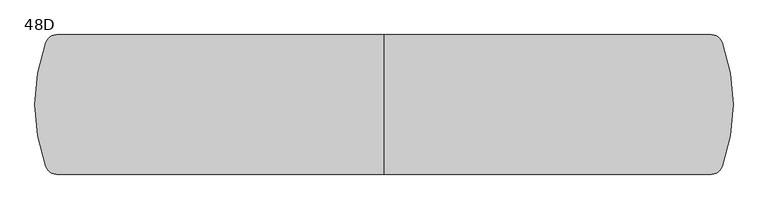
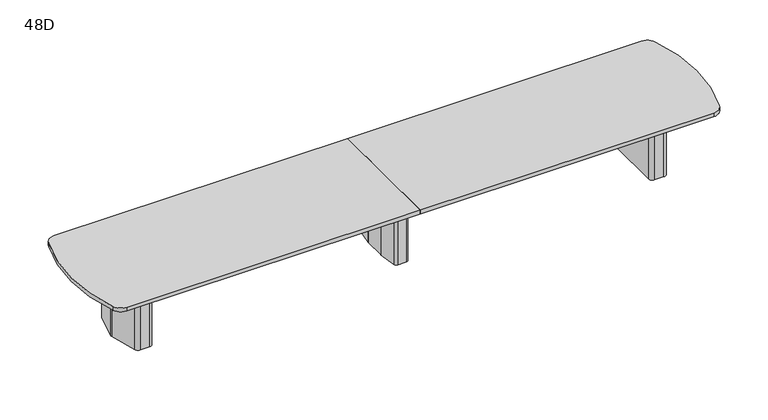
"""IFC4 building model written with IfcOpenShell, lengths in millimetres: furniture geometry, Coalesse_AM_Table_Conference_ETable2_SoftRadiused_20ft_ThreeBase : 48D."""

from ifc_helpers import new_model, si_unit, point, frame, frame_2d, origin, place, context, project, spatial, polyline, circle_curve, trimmed, segment, composite_curve, outline, extrude, source, transform, mapped, element, save
from ifc_brep_helpers import plane_surface, cylinder_surface, revolved_surface, advanced_brep


def furniture_48d_57b4d477(model_context):
    return source(origin(), model_context, "Body", "SolidModel", [
        advanced_brep(
        [(35.71875, 206.375, 3.175), (10.31875, 231.775, 3.175), (-10.31875, 231.775, 3.175), (-35.71875, 206.375, 3.175), (-35.71875, -206.375, 3.175), (-10.31875, -231.775, 3.175), (10.31875, -231.775, 3.175), (35.71875, -206.375, 3.175), (-61.11875, 206.375, 0.0), (-10.31875, 257.175, 0.0), (10.31875, 257.175, 0.0), (61.11875, 206.375, 0.0), (61.11875, -206.375, 0.0), (10.31875, -257.175, 0.0), (-10.31875, -257.175, 0.0), (-61.11875, -206.375, 0.0), (-61.11875, -206.375, 3.175), (-61.11875, 206.375, 3.175), (-10.31875, -257.175, 3.175), (10.31875, -257.175, 3.175), (61.11875, -206.375, 3.175), (61.11875, 206.375, 3.175), (10.31875, 257.175, 3.175), (-10.31875, 257.175, 3.175), (-92.6215974, 106.2976848, 698.5), (-92.86875, 102.7629613, 698.5), (-92.86875, -102.7629613, 698.5), (-92.6215974, -106.2976848, 698.5), (-67.7988375, -282.9347235, 698.5), (-42.6459902, -304.8, 698.5), (42.6459902, -304.8, 698.5), (67.7988375, -282.9347235, 698.5), (92.6215974, -106.2976848, 698.5), (92.86875, -102.7629613, 698.5), (92.86875, 102.7629613, 698.5), (92.6215974, 106.2976848, 698.5), (67.7988375, 282.9347235, 698.5), (42.6459902, 304.8, 698.5), (-42.6459902, 304.8, 698.5), (-67.7988375, 282.9347235, 698.5), (10.31875, 231.775, 698.5), (35.71875, 206.375, 698.5), (35.71875, -206.375, 698.5), (10.31875, -231.775, 698.5), (-10.31875, -231.775, 698.5), (-35.71875, -206.375, 698.5), (-35.71875, 206.375, 698.5), (-10.31875, 231.775, 698.5), (-92.6215974, 106.2976848, 3.175), (-67.7988375, 282.9347235, 3.175), (-42.6459902, 304.8, 3.175), (42.6459902, 304.8, 3.175), (67.7988375, 282.9347235, 3.175), (92.6215974, 106.2976848, 3.175), (92.86875, 102.7629613, 3.175), (92.86875, -102.7629613, 3.175), (92.6215974, -106.2976848, 3.175), (67.7988375, -282.9347235, 3.175), (42.6459902, -304.8, 3.175), (-42.6459902, -304.8, 3.175), (-67.7988375, -282.9347235, 3.175), (-92.6215974, -106.2976848, 3.175), (-92.86875, -102.7629613, 3.175), (-92.86875, 102.7629613, 3.175)],
        [
            (0, 1, circle_curve(frame((10.31875, 206.375, 3.175), z_axis=(0.0, 0.0, 1.0), x_axis=(1.0, 0.0, 0.0)), 25.4)),
            (1, 2),
            (2, 3, circle_curve(frame((-10.31875, 206.375, 3.175), z_axis=(0.0, 0.0, 1.0), x_axis=(1.0, 0.0, 0.0)), 25.4)),
            (3, 4),
            (4, 5, circle_curve(frame((-10.31875, -206.375, 3.175), z_axis=(0.0, 0.0, 1.0), x_axis=(1.0, 0.0, 0.0)), 25.4)),
            (5, 6),
            (6, 7, circle_curve(frame((10.31875, -206.375, 3.175), z_axis=(0.0, 0.0, 1.0), x_axis=(1.0, 0.0, 0.0)), 25.4)),
            (7, 0),
            (8, 9, circle_curve(frame((-10.31875, 206.375, 0.0), z_axis=(0.0, 0.0, -1.0), x_axis=(1.0, 0.0, 0.0)), 50.8)),
            (9, 10),
            (10, 11, circle_curve(frame((10.31875, 206.375, 0.0), z_axis=(0.0, 0.0, -1.0), x_axis=(1.0, 0.0, 0.0)), 50.8)),
            (11, 12),
            (12, 13, circle_curve(frame((10.31875, -206.375, 0.0), z_axis=(0.0, 0.0, -1.0), x_axis=(1.0, 0.0, 0.0)), 50.8)),
            (13, 14),
            (14, 15, circle_curve(frame((-10.31875, -206.375, 0.0), z_axis=(0.0, 0.0, -1.0), x_axis=(1.0, 0.0, 0.0)), 50.8)),
            (15, 8),
            (15, 16),
            (16, 17),
            (17, 8),
            (14, 18),
            (18, 16, circle_curve(frame((-10.31875, -206.375, 3.175), z_axis=(0.0, 0.0, -1.0), x_axis=(1.0, 0.0, 0.0)), 50.8)),
            (13, 19),
            (19, 18),
            (12, 20),
            (20, 19, circle_curve(frame((10.31875, -206.375, 3.175), z_axis=(0.0, 0.0, -1.0), x_axis=(1.0, 0.0, 0.0)), 50.8)),
            (11, 21),
            (21, 20),
            (10, 22),
            (22, 21, circle_curve(frame((10.31875, 206.375, 3.175), z_axis=(0.0, 0.0, -1.0), x_axis=(1.0, 0.0, 0.0)), 50.8)),
            (9, 23),
            (23, 22),
            (17, 23, circle_curve(frame((-10.31875, 206.375, 3.175), z_axis=(0.0, 0.0, -1.0), x_axis=(1.0, 0.0, 0.0)), 50.8)),
            (24, 25, circle_curve(frame((-67.46875, 102.7629613, 698.5), z_axis=(0.0, 0.0, 1.0), x_axis=(1.0, 0.0, 0.0)), 25.4)),
            (25, 26),
            (26, 27, circle_curve(frame((-67.46875, -102.7629613, 698.5), z_axis=(0.0, 0.0, 1.0), x_axis=(1.0, 0.0, 0.0)), 25.4)),
            (27, 28),
            (28, 29, circle_curve(frame((-42.6459902, -279.4, 698.5), z_axis=(0.0, 0.0, 1.0), x_axis=(1.0, 0.0, 0.0)), 25.4)),
            (29, 30),
            (30, 31, circle_curve(frame((42.6459902, -279.4, 698.5), z_axis=(0.0, 0.0, 1.0), x_axis=(1.0, 0.0, 0.0)), 25.4)),
            (31, 32),
            (32, 33, circle_curve(frame((67.46875, -102.7629613, 698.5), z_axis=(0.0, 0.0, 1.0), x_axis=(1.0, 0.0, 0.0)), 25.4)),
            (33, 34),
            (34, 35, circle_curve(frame((67.46875, 102.7629613, 698.5), z_axis=(0.0, 0.0, 1.0), x_axis=(1.0, 0.0, 0.0)), 25.4)),
            (35, 36),
            (36, 37, circle_curve(frame((42.6459902, 279.4, 698.5), z_axis=(0.0, 0.0, 1.0), x_axis=(1.0, 0.0, 0.0)), 25.4)),
            (37, 38),
            (38, 39, circle_curve(frame((-42.6459902, 279.4, 698.5), z_axis=(0.0, 0.0, 1.0), x_axis=(1.0, 0.0, 0.0)), 25.4)),
            (39, 24),
            (40, 41, circle_curve(frame((10.31875, 206.375, 698.5), z_axis=(0.0, 0.0, -1.0), x_axis=(1.0, 0.0, 0.0)), 25.4)),
            (41, 42),
            (42, 43, circle_curve(frame((10.31875, -206.375, 698.5), z_axis=(0.0, 0.0, -1.0), x_axis=(1.0, 0.0, 0.0)), 25.4)),
            (43, 44),
            (44, 45, circle_curve(frame((-10.31875, -206.375, 698.5), z_axis=(0.0, 0.0, -1.0), x_axis=(1.0, 0.0, 0.0)), 25.4)),
            (45, 46),
            (46, 47, circle_curve(frame((-10.31875, 206.375, 698.5), z_axis=(0.0, 0.0, -1.0), x_axis=(1.0, 0.0, 0.0)), 25.4)),
            (47, 40),
            (48, 49),
            (49, 50, circle_curve(frame((-42.6459902, 279.4, 3.175), z_axis=(0.0, 0.0, -1.0), x_axis=(1.0, 0.0, 0.0)), 25.4)),
            (50, 51),
            (51, 52, circle_curve(frame((42.6459902, 279.4, 3.175), z_axis=(0.0, 0.0, -1.0), x_axis=(1.0, 0.0, 0.0)), 25.4)),
            (52, 53),
            (53, 54, circle_curve(frame((67.46875, 102.7629613, 3.175), z_axis=(0.0, 0.0, -1.0), x_axis=(1.0, 0.0, 0.0)), 25.4)),
            (54, 55),
            (55, 56, circle_curve(frame((67.46875, -102.7629613, 3.175), z_axis=(0.0, 0.0, -1.0), x_axis=(1.0, 0.0, 0.0)), 25.4)),
            (56, 57),
            (57, 58, circle_curve(frame((42.6459902, -279.4, 3.175), z_axis=(0.0, 0.0, -1.0), x_axis=(1.0, 0.0, 0.0)), 25.4)),
            (58, 59),
            (59, 60, circle_curve(frame((-42.6459902, -279.4, 3.175), z_axis=(0.0, 0.0, -1.0), x_axis=(1.0, 0.0, 0.0)), 25.4)),
            (60, 61),
            (61, 62, circle_curve(frame((-67.46875, -102.7629613, 3.175), z_axis=(0.0, 0.0, -1.0), x_axis=(1.0, 0.0, 0.0)), 25.4)),
            (62, 63),
            (63, 48, circle_curve(frame((-67.46875, 102.7629613, 3.175), z_axis=(0.0, 0.0, -1.0), x_axis=(1.0, 0.0, 0.0)), 25.4)),
            (24, 48),
            (63, 25),
            (62, 26),
            (61, 27),
            (60, 28),
            (59, 29),
            (58, 30),
            (57, 31),
            (56, 32),
            (55, 33),
            (54, 34),
            (53, 35),
            (52, 36),
            (51, 37),
            (50, 38),
            (49, 39),
            (40, 1),
            (0, 41),
            (7, 42),
            (6, 43),
            (5, 44),
            (4, 45),
            (3, 46),
            (2, 47),
        ],
        [
            plane_surface(frame((-61.11875, -206.375, 3.175), z_axis=(0.0, 0.0, 1.0), x_axis=(0.0, -1.0, 0.0))),
            plane_surface(frame((-61.11875, -206.375, 0.0), z_axis=(0.0, 0.0, -1.0), x_axis=(0.0, 1.0, 0.0))),
            plane_surface(frame((-61.11875, 206.375, 3.175), z_axis=(-1.0, 0.0, 0.0), x_axis=(0.0, 0.0, -1.0))),
            cylinder_surface(frame((-10.31875, -206.375, 0.0), z_axis=(0.0, 0.0, 1.0), x_axis=(1.0, 0.0, 0.0)), 50.8),
            plane_surface(frame((-10.31875, -257.175, 3.175), z_axis=(0.0, -1.0, 0.0), x_axis=(0.0, 0.0, -1.0))),
            cylinder_surface(frame((10.31875, -206.375, 0.0), z_axis=(0.0, 0.0, 1.0), x_axis=(1.0, 0.0, 0.0)), 50.8),
            plane_surface(frame((61.11875, -206.375, 3.175), z_axis=(1.0, 0.0, 0.0), x_axis=(0.0, 0.0, -1.0))),
            cylinder_surface(frame((10.31875, 206.375, 0.0), z_axis=(0.0, 0.0, 1.0), x_axis=(1.0, 0.0, 0.0)), 50.8),
            plane_surface(frame((10.31875, 257.175, 3.175), z_axis=(0.0, 1.0, 0.0), x_axis=(0.0, 0.0, -1.0))),
            cylinder_surface(frame((-10.31875, 206.375, 0.0), z_axis=(0.0, 0.0, 1.0), x_axis=(1.0, 0.0, 0.0)), 50.8),
            plane_surface(frame((-42.06875, 102.7629613, 698.5), z_axis=(0.0, 0.0, 1.0), x_axis=(0.0, 1.0, 0.0))),
            plane_surface(frame((-42.06875, 102.7629613, 3.175), z_axis=(0.0, 0.0, -1.0), x_axis=(0.0, -1.0, 0.0))),
            cylinder_surface(frame((-67.46875, 102.7629613, 3.175), z_axis=(0.0, 0.0, 1.0), x_axis=(1.0, 0.0, 0.0)), 25.4),
            plane_surface(frame((-92.86875, 102.7629613, 698.5), z_axis=(-1.0, 0.0, 0.0), x_axis=(0.0, 0.0, -1.0))),
            cylinder_surface(frame((-67.46875, -102.7629613, 3.175), z_axis=(0.0, 0.0, 1.0), x_axis=(1.0, 0.0, 0.0)), 25.4),
            plane_surface(frame((-92.6215974, -106.2976848, 698.5), z_axis=(-0.9902695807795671, -0.13916234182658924, 0.0), x_axis=(0.0, 0.0, -1.0))),
            cylinder_surface(frame((-42.6459902, -279.4, 3.175), z_axis=(0.0, 0.0, 1.0), x_axis=(1.0, 0.0, 0.0)), 25.4),
            plane_surface(frame((-42.6459902, -304.8, 698.5), z_axis=(0.0, -1.0, 0.0), x_axis=(0.0, 0.0, -1.0))),
            cylinder_surface(frame((42.6459902, -279.4, 3.175), z_axis=(0.0, 0.0, 1.0), x_axis=(1.0, 0.0, 0.0)), 25.4),
            plane_surface(frame((67.7988375, -282.9347235, 698.5), z_axis=(0.9902695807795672, -0.13916234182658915, 0.0), x_axis=(0.0, 0.0, -1.0))),
            cylinder_surface(frame((67.46875, -102.7629613, 3.175), z_axis=(0.0, 0.0, 1.0), x_axis=(1.0, 0.0, 0.0)), 25.4),
            plane_surface(frame((92.86875, -102.7629613, 698.5), z_axis=(1.0, 0.0, 0.0), x_axis=(0.0, 0.0, -1.0))),
            cylinder_surface(frame((67.46875, 102.7629613, 3.175), z_axis=(0.0, 0.0, 1.0), x_axis=(1.0, 0.0, 0.0)), 25.4),
            plane_surface(frame((92.6215974, 106.2976848, 698.5), z_axis=(0.9902695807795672, 0.1391623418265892, 0.0), x_axis=(0.0, 0.0, -1.0))),
            cylinder_surface(frame((42.6459902, 279.4, 3.175), z_axis=(0.0, 0.0, 1.0), x_axis=(1.0, 0.0, 0.0)), 25.4),
            plane_surface(frame((42.6459902, 304.8, 698.5), z_axis=(0.0, 1.0, 0.0), x_axis=(0.0, 0.0, -1.0))),
            cylinder_surface(frame((-42.6459902, 279.4, 3.175), z_axis=(0.0, 0.0, 1.0), x_axis=(1.0, 0.0, 0.0)), 25.4),
            plane_surface(frame((-67.7988375, 282.9347235, 698.5), z_axis=(-0.9902695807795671, 0.13916234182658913, 0.0), x_axis=(0.0, 0.0, -1.0))),
            revolved_surface(polyline([(35.71875, 206.375, 3.175), (35.71875, 206.375, 698.5)]), (10.31875, 206.375, 0.0), (0.0, 0.0, -1.0)),
            plane_surface(frame((35.71875, 206.375, 698.5), z_axis=(-1.0, 0.0, 0.0), x_axis=(0.0, 0.0, -1.0))),
            revolved_surface(polyline([(35.71875, -206.375, 3.175), (35.71875, -206.375, 698.5)]), (10.31875, -206.375, 0.0), (0.0, 0.0, -1.0)),
            plane_surface(frame((10.31875, -231.775, 698.5), z_axis=(0.0, 1.0, 0.0), x_axis=(0.0, 0.0, -1.0))),
            revolved_surface(polyline([(15.081249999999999, -206.375, 3.175), (15.081249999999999, -206.375, 698.5)]), (-10.31875, -206.375, 0.0), (0.0, 0.0, -1.0)),
            plane_surface(frame((-35.71875, -206.375, 698.5), z_axis=(1.0, 0.0, 0.0), x_axis=(0.0, 0.0, -1.0))),
            revolved_surface(polyline([(15.081249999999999, 206.375, 3.175), (15.081249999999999, 206.375, 698.5)]), (-10.31875, 206.375, 0.0), (0.0, 0.0, -1.0)),
            plane_surface(frame((-10.31875, 231.775, 698.5), z_axis=(0.0, -1.0, 0.0), x_axis=(0.0, 0.0, -1.0))),
        ],
        [
            (0, [[1, 2, 3, 4, 5, 6, 7, 8]]),
            (1, [[9, 10, 11, 12, 13, 14, 15, 16]]),
            (2, [[-16, 17, 18, 19]]),
            (3, [[-15, 20, 21, -17]]),
            (4, [[-14, 22, 23, -20]]),
            (5, [[-13, 24, 25, -22]]),
            (6, [[-12, 26, 27, -24]]),
            (7, [[-11, 28, 29, -26]]),
            (8, [[-10, 30, 31, -28]]),
            (9, [[-9, -19, 32, -30]]),
            (10, [[33, 34, 35, 36, 37, 38, 39, 40, 41, 42, 43, 44, 45, 46, 47, 48], [49, 50, 51, 52, 53, 54, 55, 56]]),
            (11, [[57, 58, 59, 60, 61, 62, 63, 64, 65, 66, 67, 68, 69, 70, 71, 72], [-18, -21, -23, -25, -27, -29, -31, -32]]),
            (12, [[-33, 73, -72, 74]]),
            (13, [[-34, -74, -71, 75]]),
            (14, [[-35, -75, -70, 76]]),
            (15, [[-36, -76, -69, 77]]),
            (16, [[-37, -77, -68, 78]]),
            (17, [[-38, -78, -67, 79]]),
            (18, [[-39, -79, -66, 80]]),
            (19, [[-40, -80, -65, 81]]),
            (20, [[-41, -81, -64, 82]]),
            (21, [[-42, -82, -63, 83]]),
            (22, [[-43, -83, -62, 84]]),
            (23, [[-44, -84, -61, 85]]),
            (24, [[-45, -85, -60, 86]]),
            (25, [[-46, -86, -59, 87]]),
            (26, [[-47, -87, -58, 88]]),
            (27, [[-48, -88, -57, -73]]),
            (28, [[-49, 89, -1, 90]]),
            (29, [[-50, -90, -8, 91]]),
            (30, [[-51, -91, -7, 92]]),
            (31, [[-52, -92, -6, 93]]),
            (32, [[-53, -93, -5, 94]]),
            (33, [[-54, -94, -4, 95]]),
            (34, [[-55, -95, -3, 96]]),
            (35, [[-56, -96, -2, -89]]),
        ],
    ),
        advanced_brep(
        [(2589.424548, 274.2093613, 698.5), (2549.5579246, 304.8, 698.5), (2460.625, 304.8, 698.5), (2419.35, 263.525, 698.5), (2419.35, -263.525, 698.5), (2460.625, -304.8, 698.5), (2549.5579246, -304.8, 698.5), (2589.424548, -274.2093613, 698.5), (2660.0503901, -10.6333708, 698.5), (2660.0503901, 10.6333708, 698.5), (2457.45, -206.375, 698.5), (2457.45, 206.375, 698.5), (2482.85, 231.775, 698.5), (2541.8608422, 231.775, 698.5), (2566.395338, 212.9490792, 698.5), (2605.0875, 68.54974, 698.5), (2605.0875, -68.54974, 698.5), (2566.395338, -212.9490792, 698.5), (2541.8608422, -231.775, 698.5), (2482.85, -231.775, 698.5), (2589.424548, 274.2093613, 3.175), (2660.0503901, 10.6333708, 3.175), (2660.0503901, -10.6333708, 3.175), (2589.424548, -274.2093613, 3.175), (2549.5579246, -304.8, 3.175), (2460.625, -304.8, 3.175), (2419.35, -263.525, 3.175), (2419.35, 263.525, 3.175), (2460.625, 304.8, 3.175), (2549.5579246, 304.8, 3.175), (2578.6625859, 216.2361187, 3.175), (2541.8608422, 244.475, 3.175), (2482.85, 244.475, 3.175), (2444.75, 206.375, 3.175), (2444.75, -206.375, 3.175), (2482.85, -244.475, 3.175), (2541.8608422, -244.475, 3.175), (2578.6625859, -216.2361187, 3.175), (2617.7875, -70.2217466, 3.175), (2617.7875, 70.2217466, 3.175), (2482.85, -231.775, 3.175), (2457.45, -206.375, 3.175), (2541.8608422, -231.775, 3.175), (2566.395338, -212.9490792, 3.175), (2605.0875, -68.54974, 3.175), (2605.0875, 68.54974, 3.175), (2566.395338, 212.9490792, 3.175), (2541.8608422, 231.775, 3.175), (2482.85, 231.775, 3.175), (2457.45, 206.375, 3.175), (2578.6625859, 216.2361187, 0.0), (2617.7875, 70.2217466, 0.0), (2617.7875, -70.2217466, 0.0), (2578.6625859, -216.2361187, 0.0), (2541.8608422, -244.475, 0.0), (2482.85, -244.475, 0.0), (2444.75, -206.375, 0.0), (2444.75, 206.375, 0.0), (2482.85, 244.475, 0.0), (2541.8608422, 244.475, 0.0)],
        [
            (0, 1, circle_curve(frame((2549.5579246, 263.5270004, 698.5), z_axis=(0.0, 0.0, 1.0), x_axis=(-1.0, 0.0, 0.0)), 41.2729996)),
            (1, 2),
            (2, 3, circle_curve(frame((2460.625, 263.525, 698.5), z_axis=(0.0, 0.0, 1.0), x_axis=(-1.0, 0.0, 0.0)), 41.275)),
            (3, 4),
            (4, 5, circle_curve(frame((2460.625, -263.525, 698.5), z_axis=(0.0, 0.0, 1.0), x_axis=(-1.0, 0.0, 0.0)), 41.275)),
            (5, 6),
            (6, 7, circle_curve(frame((2549.5579246, -263.5270004, 698.5), z_axis=(0.0, 0.0, 1.0), x_axis=(-1.0, 0.0, 0.0)), 41.2729996)),
            (7, 8),
            (8, 9, circle_curve(frame((2620.3665979, 0.0, 698.5), z_axis=(0.0, 0.0, 1.0), x_axis=(-1.0, 0.0, 0.0)), 41.0837187)),
            (9, 0),
            (10, 11),
            (11, 12, circle_curve(frame((2482.85, 206.375, 698.5), z_axis=(0.0, 0.0, -1.0), x_axis=(-1.0, 0.0, 0.0)), 25.4)),
            (12, 13),
            (13, 14, circle_curve(frame((2541.8608422, 206.375, 698.5), z_axis=(0.0, 0.0, -1.0), x_axis=(-1.0, 0.0, 0.0)), 25.4)),
            (14, 15),
            (15, 16),
            (16, 17),
            (17, 18, circle_curve(frame((2541.8608422, -206.375, 698.5), z_axis=(0.0, 0.0, -1.0), x_axis=(-1.0, 0.0, 0.0)), 25.4)),
            (18, 19),
            (19, 10, circle_curve(frame((2482.85, -206.375, 698.5), z_axis=(0.0, 0.0, -1.0), x_axis=(-1.0, 0.0, 0.0)), 25.4)),
            (20, 21),
            (21, 22, circle_curve(frame((2620.3665979, 0.0, 3.175), z_axis=(0.0, 0.0, -1.0), x_axis=(-1.0, 0.0, 0.0)), 41.0837187)),
            (22, 23),
            (23, 24, circle_curve(frame((2549.5579246, -263.5270004, 3.175), z_axis=(0.0, 0.0, -1.0), x_axis=(-1.0, 0.0, 0.0)), 41.2729996)),
            (24, 25),
            (25, 26, circle_curve(frame((2460.625, -263.525, 3.175), z_axis=(0.0, 0.0, -1.0), x_axis=(-1.0, 0.0, 0.0)), 41.275)),
            (26, 27),
            (27, 28, circle_curve(frame((2460.625, 263.525, 3.175), z_axis=(0.0, 0.0, -1.0), x_axis=(-1.0, 0.0, 0.0)), 41.275)),
            (28, 29),
            (29, 20, circle_curve(frame((2549.5579246, 263.5270004, 3.175), z_axis=(0.0, 0.0, -1.0), x_axis=(-1.0, 0.0, 0.0)), 41.2729996)),
            (30, 31, circle_curve(frame((2541.8608422, 206.375, 3.175), z_axis=(0.0, 0.0, 1.0), x_axis=(-1.0, 0.0, 0.0)), 38.1)),
            (31, 32),
            (32, 33, circle_curve(frame((2482.85, 206.375, 3.175), z_axis=(0.0, 0.0, 1.0), x_axis=(-1.0, 0.0, 0.0)), 38.1)),
            (33, 34),
            (34, 35, circle_curve(frame((2482.85, -206.375, 3.175), z_axis=(0.0, 0.0, 1.0), x_axis=(-1.0, 0.0, 0.0)), 38.1)),
            (35, 36),
            (36, 37, circle_curve(frame((2541.8608422, -206.375, 3.175), z_axis=(0.0, 0.0, 1.0), x_axis=(-1.0, 0.0, 0.0)), 38.1)),
            (37, 38),
            (38, 39),
            (39, 30),
            (9, 21),
            (20, 0),
            (8, 22),
            (7, 23),
            (6, 24),
            (5, 25),
            (4, 26),
            (3, 27),
            (2, 28),
            (1, 29),
            (19, 40),
            (40, 41, circle_curve(frame((2482.85, -206.375, 3.175), z_axis=(0.0, 0.0, -1.0), x_axis=(-1.0, 0.0, 0.0)), 25.4)),
            (41, 10),
            (18, 42),
            (42, 40),
            (17, 43),
            (43, 42, circle_curve(frame((2541.8608422, -206.375, 3.175), z_axis=(0.0, 0.0, -1.0), x_axis=(-1.0, 0.0, 0.0)), 25.4)),
            (16, 44),
            (44, 43),
            (15, 45),
            (45, 44),
            (14, 46),
            (46, 45),
            (13, 47),
            (47, 46, circle_curve(frame((2541.8608422, 206.375, 3.175), z_axis=(0.0, 0.0, -1.0), x_axis=(-1.0, 0.0, 0.0)), 25.4)),
            (12, 48),
            (48, 47),
            (11, 49),
            (49, 48, circle_curve(frame((2482.85, 206.375, 3.175), z_axis=(0.0, 0.0, -1.0), x_axis=(-1.0, 0.0, 0.0)), 25.4)),
            (41, 49),
            (50, 51),
            (51, 52),
            (52, 53),
            (53, 54, circle_curve(frame((2541.8608422, -206.375, 0.0), z_axis=(0.0, 0.0, -1.0), x_axis=(-1.0, 0.0, 0.0)), 38.1)),
            (54, 55),
            (55, 56, circle_curve(frame((2482.85, -206.375, 0.0), z_axis=(0.0, 0.0, -1.0), x_axis=(-1.0, 0.0, 0.0)), 38.1)),
            (56, 57),
            (57, 58, circle_curve(frame((2482.85, 206.375, 0.0), z_axis=(0.0, 0.0, -1.0), x_axis=(-1.0, 0.0, 0.0)), 38.1)),
            (58, 59),
            (59, 50, circle_curve(frame((2541.8608422, 206.375, 0.0), z_axis=(0.0, 0.0, -1.0), x_axis=(-1.0, 0.0, 0.0)), 38.1)),
            (50, 30),
            (39, 51),
            (38, 52),
            (37, 53),
            (36, 54),
            (35, 55),
            (34, 56),
            (33, 57),
            (32, 58),
            (31, 59),
        ],
        [
            plane_surface(frame((2660.0374275, 10.6817473, 698.5), z_axis=(0.0, 0.0, 1.0000000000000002), x_axis=(0.25882201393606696, -0.9659250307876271, 0.0))),
            plane_surface(frame((2660.0374275, 10.6817473, 3.175), z_axis=(0.0, 0.0, -1.0000000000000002), x_axis=(-0.25882201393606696, 0.9659250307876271, 0.0))),
            plane_surface(frame((2589.424548, 274.2093613, 698.5), z_axis=(0.9659250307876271, 0.25882201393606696, 0.0), x_axis=(0.0, 0.0, -1.0))),
            cylinder_surface(frame((2620.3665979, 0.0, 3.175), z_axis=(0.0, 0.0, 1.0), x_axis=(-1.0, 0.0, 0.0)), 41.0837187),
            plane_surface(frame((2660.0503901, -10.6333708, 698.5), z_axis=(0.9659250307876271, -0.2588220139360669, 0.0), x_axis=(0.0, 0.0, -1.0))),
            cylinder_surface(frame((2549.5579246, -263.5270004, 3.175), z_axis=(0.0, 0.0, 1.0), x_axis=(-1.0, 0.0, 0.0)), 41.2729996),
            plane_surface(frame((2549.5579246, -304.8, 698.5), z_axis=(0.0, -1.0, 0.0), x_axis=(0.0, 0.0, -1.0))),
            cylinder_surface(frame((2460.625, -263.525, 3.175), z_axis=(0.0, 0.0, 1.0), x_axis=(-1.0, 0.0, 0.0)), 41.275),
            plane_surface(frame((2419.35, -263.525, 698.5), z_axis=(-1.0, 0.0, 0.0), x_axis=(0.0, 0.0, -1.0))),
            cylinder_surface(frame((2460.625, 263.525, 3.175), z_axis=(0.0, 0.0, 1.0), x_axis=(-1.0, 0.0, 0.0)), 41.275),
            plane_surface(frame((2460.625, 304.8, 698.5), z_axis=(0.0, 1.0, 0.0), x_axis=(0.0, 0.0, -1.0))),
            cylinder_surface(frame((2549.5579246, 263.5270004, 3.175), z_axis=(0.0, 0.0, 1.0), x_axis=(-1.0, 0.0, 0.0)), 41.2729996),
            revolved_surface(polyline([(2457.45, -206.375, 3.175), (2457.45, -206.375, 698.5)]), (2482.85, -206.375, 0.0), (0.0, 0.0, -1.0)),
            plane_surface(frame((2482.85, -231.775, 698.5), z_axis=(0.0, 1.0, 0.0), x_axis=(0.0, 0.0, -1.0))),
            revolved_surface(polyline([(2516.4608422, -206.375, 3.175), (2516.4608422, -206.375, 698.5)]), (2541.8608422, -206.375, 0.0), (0.0, 0.0, -1.0)),
            plane_surface(frame((2566.395338, -212.9490792, 698.5), z_axis=(-0.9659250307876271, 0.2588220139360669, 0.0), x_axis=(0.0, 0.0, -1.0))),
            plane_surface(frame((2605.0875, -68.54974, 698.5), z_axis=(-1.0, 0.0, 0.0), x_axis=(0.0, 0.0, -1.0))),
            plane_surface(frame((2605.0875, 68.54974, 698.5), z_axis=(-0.9659250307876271, -0.25882201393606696, 0.0), x_axis=(0.0, 0.0, -1.0))),
            revolved_surface(polyline([(2516.4608422, 206.375, 3.175), (2516.4608422, 206.375, 698.5)]), (2541.8608422, 206.375, 0.0), (0.0, 0.0, -1.0)),
            plane_surface(frame((2541.8608422, 231.775, 698.5), z_axis=(0.0, -1.0, 0.0), x_axis=(0.0, 0.0, -1.0))),
            revolved_surface(polyline([(2457.45, 206.375, 3.175), (2457.45, 206.375, 698.5)]), (2482.85, 206.375, 0.0), (0.0, 0.0, -1.0)),
            plane_surface(frame((2457.45, 206.375, 698.5), z_axis=(1.0, 0.0, 0.0), x_axis=(0.0, 0.0, -1.0))),
            plane_surface(frame((2617.3547479, 71.8367796, 3.175), z_axis=(0.0, 0.0, 1.0), x_axis=(0.25882201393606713, -0.965925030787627, 0.0))),
            plane_surface(frame((2617.3547479, 71.8367796, 0.0), z_axis=(0.0, 0.0, -1.0), x_axis=(-0.25882201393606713, 0.965925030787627, 0.0))),
            plane_surface(frame((2578.6625859, 216.2361187, 3.175), z_axis=(0.965925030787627, 0.25882201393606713, 0.0), x_axis=(0.0, 0.0, -1.0))),
            plane_surface(frame((2617.7875, 70.2217466, 3.175), z_axis=(1.0, 0.0, 0.0), x_axis=(0.0, 0.0, -1.0))),
            plane_surface(frame((2617.7875, -70.2217466, 3.175), z_axis=(0.9659250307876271, -0.2588220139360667, 0.0), x_axis=(0.0, 0.0, -1.0))),
            cylinder_surface(frame((2541.8608422, -206.375, 0.0), z_axis=(0.0, 0.0, 1.0), x_axis=(-1.0, 0.0, 0.0)), 38.1),
            plane_surface(frame((2541.8608422, -244.475, 3.175), z_axis=(0.0, -1.0, 0.0), x_axis=(0.0, 0.0, -1.0))),
            cylinder_surface(frame((2482.85, -206.375, 0.0), z_axis=(0.0, 0.0, 1.0), x_axis=(-1.0, 0.0, 0.0)), 38.1),
            plane_surface(frame((2444.75, -206.375, 3.175), z_axis=(-1.0, 0.0, 0.0), x_axis=(0.0, 0.0, -1.0))),
            cylinder_surface(frame((2482.85, 206.375, 0.0), z_axis=(0.0, 0.0, 1.0), x_axis=(-1.0, 0.0, 0.0)), 38.1),
            plane_surface(frame((2482.85, 244.475, 3.175), z_axis=(0.0, 1.0, 0.0), x_axis=(0.0, 0.0, -1.0))),
            cylinder_surface(frame((2541.8608422, 206.375, 0.0), z_axis=(0.0, 0.0, 1.0), x_axis=(-1.0, 0.0, 0.0)), 38.1),
        ],
        [
            (0, [[1, 2, 3, 4, 5, 6, 7, 8, 9, 10], [11, 12, 13, 14, 15, 16, 17, 18, 19, 20]]),
            (1, [[21, 22, 23, 24, 25, 26, 27, 28, 29, 30], [31, 32, 33, 34, 35, 36, 37, 38, 39, 40]]),
            (2, [[41, -21, 42, -10]]),
            (3, [[43, -22, -41, -9]]),
            (4, [[44, -23, -43, -8]]),
            (5, [[45, -24, -44, -7]]),
            (6, [[46, -25, -45, -6]]),
            (7, [[47, -26, -46, -5]]),
            (8, [[48, -27, -47, -4]]),
            (9, [[49, -28, -48, -3]]),
            (10, [[50, -29, -49, -2]]),
            (11, [[-42, -30, -50, -1]]),
            (12, [[51, 52, 53, -20]]),
            (13, [[54, 55, -51, -19]]),
            (14, [[56, 57, -54, -18]]),
            (15, [[58, 59, -56, -17]]),
            (16, [[60, 61, -58, -16]]),
            (17, [[62, 63, -60, -15]]),
            (18, [[64, 65, -62, -14]]),
            (19, [[66, 67, -64, -13]]),
            (20, [[68, 69, -66, -12]]),
            (21, [[-53, 70, -68, -11]]),
            (22, [[-55, -57, -59, -61, -63, -65, -67, -69, -70, -52]]),
            (23, [[71, 72, 73, 74, 75, 76, 77, 78, 79, 80]]),
            (24, [[81, -40, 82, -71]]),
            (25, [[-82, -39, 83, -72]]),
            (26, [[-83, -38, 84, -73]]),
            (27, [[-84, -37, 85, -74]]),
            (28, [[-85, -36, 86, -75]]),
            (29, [[-86, -35, 87, -76]]),
            (30, [[-87, -34, 88, -77]]),
            (31, [[-88, -33, 89, -78]]),
            (32, [[-89, -32, 90, -79]]),
            (33, [[-90, -31, -81, -80]]),
        ],
    ),
        advanced_brep(
        [(-2589.424548, 274.2093613, 698.5), (-2660.0503901, 10.6333708, 698.5), (-2660.0503901, -10.6333708, 698.5), (-2589.424548, -274.2093613, 698.5), (-2549.5579246, -304.8, 698.5), (-2460.625, -304.8, 698.5), (-2419.35, -263.525, 698.5), (-2419.35, 263.525, 698.5), (-2460.625, 304.8, 698.5), (-2549.5579246, 304.8, 698.5), (-2457.45, -206.375, 698.5), (-2482.85, -231.775, 698.5), (-2541.8608422, -231.775, 698.5), (-2566.395338, -212.9490792, 698.5), (-2605.0875, -68.54974, 698.5), (-2605.0875, 68.54974, 698.5), (-2566.395338, 212.9490792, 698.5), (-2541.8608422, 231.775, 698.5), (-2482.85, 231.775, 698.5), (-2457.45, 206.375, 698.5), (-2589.424548, 274.2093613, 3.175), (-2549.5579246, 304.8, 3.175), (-2460.625, 304.8, 3.175), (-2419.35, 263.525, 3.175), (-2419.35, -263.525, 3.175), (-2460.625, -304.8, 3.175), (-2549.5579246, -304.8, 3.175), (-2589.424548, -274.2093613, 3.175), (-2660.0503901, -10.6333708, 3.175), (-2660.0503901, 10.6333708, 3.175), (-2578.6625859, 216.2361187, 3.175), (-2617.7875, 70.2217466, 3.175), (-2617.7875, -70.2217466, 3.175), (-2578.6625859, -216.2361187, 3.175), (-2541.8608422, -244.475, 3.175), (-2482.85, -244.475, 3.175), (-2444.75, -206.375, 3.175), (-2444.75, 206.375, 3.175), (-2482.85, 244.475, 3.175), (-2541.8608422, 244.475, 3.175), (-2457.45, -206.375, 3.175), (-2482.85, -231.775, 3.175), (-2541.8608422, -231.775, 3.175), (-2566.395338, -212.9490792, 3.175), (-2605.0875, -68.54974, 3.175), (-2605.0875, 68.54974, 3.175), (-2566.395338, 212.9490792, 3.175), (-2541.8608422, 231.775, 3.175), (-2482.85, 231.775, 3.175), (-2457.45, 206.375, 3.175), (-2578.6625859, 216.2361187, 0.0), (-2541.8608422, 244.475, 0.0), (-2482.85, 244.475, 0.0), (-2444.75, 206.375, 0.0), (-2444.75, -206.375, 0.0), (-2482.85, -244.475, 0.0), (-2541.8608422, -244.475, 0.0), (-2578.6625859, -216.2361187, 0.0), (-2617.7875, -70.2217466, 0.0), (-2617.7875, 70.2217466, 0.0)],
        [
            (0, 1),
            (1, 2, circle_curve(frame((-2620.3665979, 0.0, 698.5), z_axis=(0.0, 0.0, 1.0), x_axis=(1.0, 0.0, 0.0)), 41.0837187)),
            (2, 3),
            (3, 4, circle_curve(frame((-2549.5579246, -263.5270004, 698.5), z_axis=(0.0, 0.0, 1.0), x_axis=(1.0, 0.0, 0.0)), 41.2729996)),
            (4, 5),
            (5, 6, circle_curve(frame((-2460.625, -263.525, 698.5), z_axis=(0.0, 0.0, 1.0), x_axis=(1.0, 0.0, 0.0)), 41.275)),
            (6, 7),
            (7, 8, circle_curve(frame((-2460.625, 263.525, 698.5), z_axis=(0.0, 0.0, 1.0), x_axis=(1.0, 0.0, 0.0)), 41.275)),
            (8, 9),
            (9, 0, circle_curve(frame((-2549.5579246, 263.5270004, 698.5), z_axis=(0.0, 0.0, 1.0), x_axis=(1.0, 0.0, 0.0)), 41.2729996)),
            (10, 11, circle_curve(frame((-2482.85, -206.375, 698.5), z_axis=(0.0, 0.0, -1.0), x_axis=(1.0, 0.0, 0.0)), 25.4)),
            (11, 12),
            (12, 13, circle_curve(frame((-2541.8608422, -206.375, 698.5), z_axis=(0.0, 0.0, -1.0), x_axis=(1.0, 0.0, 0.0)), 25.4)),
            (13, 14),
            (14, 15),
            (15, 16),
            (16, 17, circle_curve(frame((-2541.8608422, 206.375, 698.5), z_axis=(0.0, 0.0, -1.0), x_axis=(1.0, 0.0, 0.0)), 25.4)),
            (17, 18),
            (18, 19, circle_curve(frame((-2482.85, 206.375, 698.5), z_axis=(0.0, 0.0, -1.0), x_axis=(1.0, 0.0, 0.0)), 25.4)),
            (19, 10),
            (20, 21, circle_curve(frame((-2549.5579246, 263.5270004, 3.175), z_axis=(0.0, 0.0, -1.0), x_axis=(1.0, 0.0, 0.0)), 41.2729996)),
            (21, 22),
            (22, 23, circle_curve(frame((-2460.625, 263.525, 3.175), z_axis=(0.0, 0.0, -1.0), x_axis=(1.0, 0.0, 0.0)), 41.275)),
            (23, 24),
            (24, 25, circle_curve(frame((-2460.625, -263.525, 3.175), z_axis=(0.0, 0.0, -1.0), x_axis=(1.0, 0.0, 0.0)), 41.275)),
            (25, 26),
            (26, 27, circle_curve(frame((-2549.5579246, -263.5270004, 3.175), z_axis=(0.0, 0.0, -1.0), x_axis=(1.0, 0.0, 0.0)), 41.2729996)),
            (27, 28),
            (28, 29, circle_curve(frame((-2620.3665979, 0.0, 3.175), z_axis=(0.0, 0.0, -1.0), x_axis=(1.0, 0.0, 0.0)), 41.0837187)),
            (29, 20),
            (30, 31),
            (31, 32),
            (32, 33),
            (33, 34, circle_curve(frame((-2541.8608422, -206.375, 3.175), z_axis=(0.0, 0.0, 1.0), x_axis=(1.0, 0.0, 0.0)), 38.1)),
            (34, 35),
            (35, 36, circle_curve(frame((-2482.85, -206.375, 3.175), z_axis=(0.0, 0.0, 1.0), x_axis=(1.0, 0.0, 0.0)), 38.1)),
            (36, 37),
            (37, 38, circle_curve(frame((-2482.85, 206.375, 3.175), z_axis=(0.0, 0.0, 1.0), x_axis=(1.0, 0.0, 0.0)), 38.1)),
            (38, 39),
            (39, 30, circle_curve(frame((-2541.8608422, 206.375, 3.175), z_axis=(0.0, 0.0, 1.0), x_axis=(1.0, 0.0, 0.0)), 38.1)),
            (0, 20),
            (29, 1),
            (28, 2),
            (27, 3),
            (26, 4),
            (25, 5),
            (24, 6),
            (23, 7),
            (22, 8),
            (21, 9),
            (10, 40),
            (40, 41, circle_curve(frame((-2482.85, -206.375, 3.175), z_axis=(0.0, 0.0, -1.0), x_axis=(1.0, 0.0, 0.0)), 25.4)),
            (41, 11),
            (41, 42),
            (42, 12),
            (42, 43, circle_curve(frame((-2541.8608422, -206.375, 3.175), z_axis=(0.0, 0.0, -1.0), x_axis=(1.0, 0.0, 0.0)), 25.4)),
            (43, 13),
            (43, 44),
            (44, 14),
            (44, 45),
            (45, 15),
            (45, 46),
            (46, 16),
            (46, 47, circle_curve(frame((-2541.8608422, 206.375, 3.175), z_axis=(0.0, 0.0, -1.0), x_axis=(1.0, 0.0, 0.0)), 25.4)),
            (47, 17),
            (47, 48),
            (48, 18),
            (48, 49, circle_curve(frame((-2482.85, 206.375, 3.175), z_axis=(0.0, 0.0, -1.0), x_axis=(1.0, 0.0, 0.0)), 25.4)),
            (49, 19),
            (49, 40),
            (50, 51, circle_curve(frame((-2541.8608422, 206.375, 0.0), z_axis=(0.0, 0.0, -1.0), x_axis=(1.0, 0.0, 0.0)), 38.1)),
            (51, 52),
            (52, 53, circle_curve(frame((-2482.85, 206.375, 0.0), z_axis=(0.0, 0.0, -1.0), x_axis=(1.0, 0.0, 0.0)), 38.1)),
            (53, 54),
            (54, 55, circle_curve(frame((-2482.85, -206.375, 0.0), z_axis=(0.0, 0.0, -1.0), x_axis=(1.0, 0.0, 0.0)), 38.1)),
            (55, 56),
            (56, 57, circle_curve(frame((-2541.8608422, -206.375, 0.0), z_axis=(0.0, 0.0, -1.0), x_axis=(1.0, 0.0, 0.0)), 38.1)),
            (57, 58),
            (58, 59),
            (59, 50),
            (59, 31),
            (30, 50),
            (58, 32),
            (57, 33),
            (56, 34),
            (55, 35),
            (54, 36),
            (53, 37),
            (52, 38),
            (51, 39),
        ],
        [
            plane_surface(frame((-2660.0374275, 10.6817473, 698.5), z_axis=(0.0, 0.0, 1.0000000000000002), x_axis=(-0.25882201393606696, -0.9659250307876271, 0.0))),
            plane_surface(frame((-2660.0374275, 10.6817473, 3.175), z_axis=(0.0, 0.0, -1.0000000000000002), x_axis=(0.25882201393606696, 0.9659250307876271, 0.0))),
            plane_surface(frame((-2589.424548, 274.2093613, 698.5), z_axis=(-0.9659250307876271, 0.25882201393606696, 0.0), x_axis=(0.0, 0.0, -1.0))),
            cylinder_surface(frame((-2620.3665979, 0.0, 3.175), z_axis=(0.0, 0.0, 1.0), x_axis=(1.0, 0.0, 0.0)), 41.0837187),
            plane_surface(frame((-2660.0503901, -10.6333708, 698.5), z_axis=(-0.9659250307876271, -0.2588220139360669, 0.0), x_axis=(0.0, 0.0, -1.0))),
            cylinder_surface(frame((-2549.5579246, -263.5270004, 3.175), z_axis=(0.0, 0.0, 1.0), x_axis=(1.0, 0.0, 0.0)), 41.2729996),
            plane_surface(frame((-2549.5579246, -304.8, 698.5), z_axis=(0.0, -1.0, 0.0), x_axis=(0.0, 0.0, -1.0))),
            cylinder_surface(frame((-2460.625, -263.525, 3.175), z_axis=(0.0, 0.0, 1.0), x_axis=(1.0, 0.0, 0.0)), 41.275),
            plane_surface(frame((-2419.35, -263.525, 698.5), z_axis=(1.0, 0.0, 0.0), x_axis=(0.0, 0.0, -1.0))),
            cylinder_surface(frame((-2460.625, 263.525, 3.175), z_axis=(0.0, 0.0, 1.0), x_axis=(1.0, 0.0, 0.0)), 41.275),
            plane_surface(frame((-2460.625, 304.8, 698.5), z_axis=(0.0, 1.0, 0.0), x_axis=(0.0, 0.0, -1.0))),
            cylinder_surface(frame((-2549.5579246, 263.5270004, 3.175), z_axis=(0.0, 0.0, 1.0), x_axis=(1.0, 0.0, 0.0)), 41.2729996),
            revolved_surface(polyline([(-2457.45, -206.375, 3.175), (-2457.45, -206.375, 698.5)]), (-2482.85, -206.375, 0.0), (0.0, 0.0, -1.0)),
            plane_surface(frame((-2482.85, -231.775, 698.5), z_axis=(0.0, 1.0, 0.0), x_axis=(0.0, 0.0, -1.0))),
            revolved_surface(polyline([(-2516.4608422, -206.375, 3.175), (-2516.4608422, -206.375, 698.5)]), (-2541.8608422, -206.375, 0.0), (0.0, 0.0, -1.0)),
            plane_surface(frame((-2566.395338, -212.9490792, 698.5), z_axis=(0.9659250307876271, 0.2588220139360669, 0.0), x_axis=(0.0, 0.0, -1.0))),
            plane_surface(frame((-2605.0875, -68.54974, 698.5), z_axis=(1.0, 0.0, 0.0), x_axis=(0.0, 0.0, -1.0))),
            plane_surface(frame((-2605.0875, 68.54974, 698.5), z_axis=(0.9659250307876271, -0.25882201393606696, 0.0), x_axis=(0.0, 0.0, -1.0))),
            revolved_surface(polyline([(-2516.4608422, 206.375, 3.175), (-2516.4608422, 206.375, 698.5)]), (-2541.8608422, 206.375, 0.0), (0.0, 0.0, -1.0)),
            plane_surface(frame((-2541.8608422, 231.775, 698.5), z_axis=(0.0, -1.0, 0.0), x_axis=(0.0, 0.0, -1.0))),
            revolved_surface(polyline([(-2457.45, 206.375, 3.175), (-2457.45, 206.375, 698.5)]), (-2482.85, 206.375, 0.0), (0.0, 0.0, -1.0)),
            plane_surface(frame((-2457.45, 206.375, 698.5), z_axis=(-1.0, 0.0, 0.0), x_axis=(0.0, 0.0, -1.0))),
            plane_surface(frame((-2617.3547479, 71.8367796, 3.175), z_axis=(0.0, 0.0, 1.0), x_axis=(-0.25882201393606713, -0.965925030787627, 0.0))),
            plane_surface(frame((-2617.3547479, 71.8367796, 0.0), z_axis=(0.0, 0.0, -1.0), x_axis=(0.25882201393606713, 0.965925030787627, 0.0))),
            plane_surface(frame((-2578.6625859, 216.2361187, 3.175), z_axis=(-0.965925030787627, 0.25882201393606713, 0.0), x_axis=(0.0, 0.0, -1.0))),
            plane_surface(frame((-2617.7875, 70.2217466, 3.175), z_axis=(-1.0, 0.0, 0.0), x_axis=(0.0, 0.0, -1.0))),
            plane_surface(frame((-2617.7875, -70.2217466, 3.175), z_axis=(-0.9659250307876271, -0.2588220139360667, 0.0), x_axis=(0.0, 0.0, -1.0))),
            cylinder_surface(frame((-2541.8608422, -206.375, 0.0), z_axis=(0.0, 0.0, 1.0), x_axis=(1.0, 0.0, 0.0)), 38.1),
            plane_surface(frame((-2541.8608422, -244.475, 3.175), z_axis=(0.0, -1.0, 0.0), x_axis=(0.0, 0.0, -1.0))),
            cylinder_surface(frame((-2482.85, -206.375, 0.0), z_axis=(0.0, 0.0, 1.0), x_axis=(1.0, 0.0, 0.0)), 38.1),
            plane_surface(frame((-2444.75, -206.375, 3.175), z_axis=(1.0, 0.0, 0.0), x_axis=(0.0, 0.0, -1.0))),
            cylinder_surface(frame((-2482.85, 206.375, 0.0), z_axis=(0.0, 0.0, 1.0), x_axis=(1.0, 0.0, 0.0)), 38.1),
            plane_surface(frame((-2482.85, 244.475, 3.175), z_axis=(0.0, 1.0, 0.0), x_axis=(0.0, 0.0, -1.0))),
            cylinder_surface(frame((-2541.8608422, 206.375, 0.0), z_axis=(0.0, 0.0, 1.0), x_axis=(1.0, 0.0, 0.0)), 38.1),
        ],
        [
            (0, [[1, 2, 3, 4, 5, 6, 7, 8, 9, 10], [11, 12, 13, 14, 15, 16, 17, 18, 19, 20]]),
            (1, [[21, 22, 23, 24, 25, 26, 27, 28, 29, 30], [31, 32, 33, 34, 35, 36, 37, 38, 39, 40]]),
            (2, [[-1, 41, -30, 42]]),
            (3, [[-2, -42, -29, 43]]),
            (4, [[-3, -43, -28, 44]]),
            (5, [[-4, -44, -27, 45]]),
            (6, [[-5, -45, -26, 46]]),
            (7, [[-6, -46, -25, 47]]),
            (8, [[-7, -47, -24, 48]]),
            (9, [[-8, -48, -23, 49]]),
            (10, [[-9, -49, -22, 50]]),
            (11, [[-10, -50, -21, -41]]),
            (12, [[-11, 51, 52, 53]]),
            (13, [[-12, -53, 54, 55]]),
            (14, [[-13, -55, 56, 57]]),
            (15, [[-14, -57, 58, 59]]),
            (16, [[-15, -59, 60, 61]]),
            (17, [[-16, -61, 62, 63]]),
            (18, [[-17, -63, 64, 65]]),
            (19, [[-18, -65, 66, 67]]),
            (20, [[-19, -67, 68, 69]]),
            (21, [[-20, -69, 70, -51]]),
            (22, [[-52, -70, -68, -66, -64, -62, -60, -58, -56, -54]]),
            (23, [[71, 72, 73, 74, 75, 76, 77, 78, 79, 80]]),
            (24, [[-80, 81, -31, 82]]),
            (25, [[-79, 83, -32, -81]]),
            (26, [[-78, 84, -33, -83]]),
            (27, [[-77, 85, -34, -84]]),
            (28, [[-76, 86, -35, -85]]),
            (29, [[-75, 87, -36, -86]]),
            (30, [[-74, 88, -37, -87]]),
            (31, [[-73, 89, -38, -88]]),
            (32, [[-72, 90, -39, -89]]),
            (33, [[-71, -82, -40, -90]]),
        ],
    ),
        extrude(outline(composite_curve([segment(trimmed(circle_curve(frame_2d((2858.8557965, 508.0)), 101.6), [point((2858.8557965, 609.6))], [point((2954.6453259, 541.8662966))], False, "CARTESIAN"), True, "CONTINUOUS"), segment(polyline([(2954.6453259, 541.8662966), (2955.3956256, 539.7441026)]), True, "CONTINUOUS"), segment(trimmed(circle_curve(frame_2d((1428.75, 0.0)), 1619.25), [point((2955.3956256, 539.7441026))], [point((2955.3956256, -539.7441026))], False, "CARTESIAN"), True, "CONTINUOUS"), segment(polyline([(2955.3956256, -539.7441026), (2954.6453259, -541.8662966)]), True, "CONTINUOUS"), segment(trimmed(circle_curve(frame_2d((2858.8557965, -508.0)), 101.6), [point((2954.6453259, -541.8662966))], [point((2858.8557965, -609.6))], False, "CARTESIAN"), True, "CONTINUOUS"), segment(polyline([(2858.8557965, -609.6), (0.0, -609.6), (0.0, 609.6), (2858.8557965, 609.6)]), True, "CONTINUOUS")], self_intersect=False)), frame((0.0, 0.0, 698.5), z_axis=(0.0, 0.0, 1.0), x_axis=(1.0, 0.0, 0.0)), (0.0, 0.0, 1.0), 38.1),
        extrude(outline(composite_curve([segment(polyline([(-2858.8557965, 609.6), (0.0, 609.6), (0.0, -609.6), (-2858.8557965, -609.6)]), True, "CONTINUOUS"), segment(trimmed(circle_curve(frame_2d((-2858.8557965, -508.0)), 101.6), [point((-2858.8557965, -609.6))], [point((-2954.6453259, -541.8662966))], False, "CARTESIAN"), True, "CONTINUOUS"), segment(polyline([(-2954.6453259, -541.8662966), (-2955.3956256, -539.7441026)]), True, "CONTINUOUS"), segment(trimmed(circle_curve(frame_2d((-1428.75, 0.0)), 1619.25), [point((-2955.3956256, -539.7441026))], [point((-2955.3956256, 539.7441026))], False, "CARTESIAN"), True, "CONTINUOUS"), segment(polyline([(-2955.3956256, 539.7441026), (-2954.6453259, 541.8662966)]), True, "CONTINUOUS"), segment(trimmed(circle_curve(frame_2d((-2858.8557965, 508.0)), 101.6), [point((-2954.6453259, 541.8662966))], [point((-2858.8557965, 609.6))], False, "CARTESIAN"), True, "CONTINUOUS")], self_intersect=False)), frame((0.0, 0.0, 698.5), z_axis=(0.0, 0.0, 1.0), x_axis=(1.0, 0.0, 0.0)), (0.0, 0.0, 1.0), 38.1),
        extrude(outline(polyline([(96.8375, 698.5), (103.1875, 698.5), (103.1875, 476.25), (-103.1875, 476.25), (-103.1875, 698.5), (-96.8375, 698.5), (-96.8375, 482.6), (96.8375, 482.6), (96.8375, 698.5)])), frame((-2419.35, 0.0, 0.0), z_axis=(1.0, 0.0, 0.0), x_axis=(0.0, 1.0, 0.0)), (0.0, 0.0, 1.0), 4838.7),
    ])


if __name__ == "__main__":
    model = new_model("IFC4")
    model_context = context("Model", 3, world=origin())
    ifc_project = project(units=[si_unit("LENGTHUNIT", "METRE", prefix="MILLI")], contexts=[model_context])
    site = spatial("IfcSite", under=ifc_project)
    building = spatial("IfcBuilding", under=site)
    placement = place(None, origin())
    furniture_48d_shape = furniture_48d_57b4d477(model_context)
    element("IfcFurniture", 1, ObjectType="Coalesse_AM_Table_Conference_ETable2_SoftRadiused_20ft_ThreeBase : 48D", at=placement, inside=building, context=model_context, shape_type="MappedRepresentation", body=[
        mapped(furniture_48d_shape, transform((0.0, 0.0, 0.0), x_axis=(1.0, 0.0, 0.0), y_axis=(0.0, 1.0, 0.0), z_axis=(0.0, 0.0, 1.0))),
    ])
    save(model, "model.ifc")
